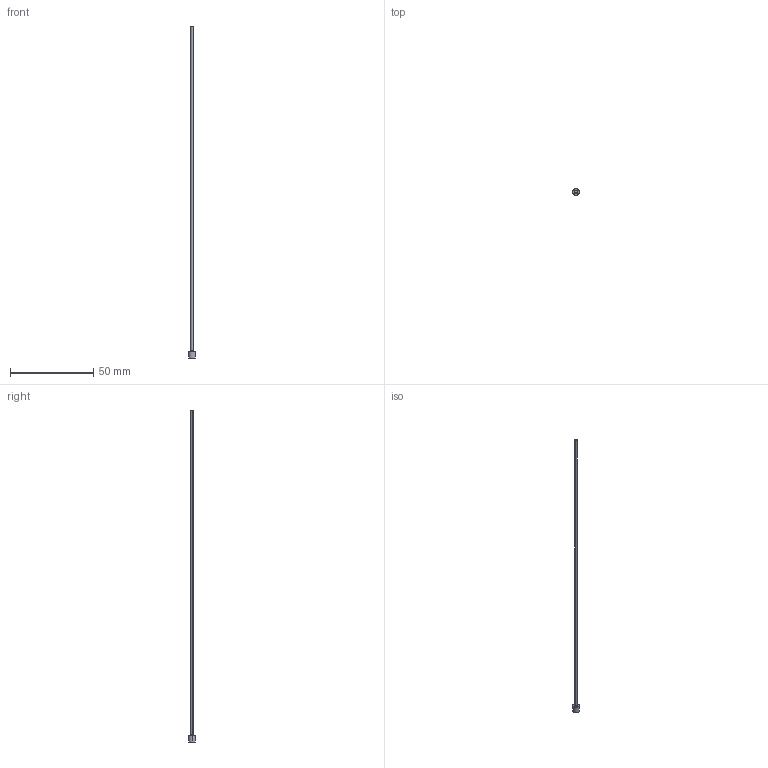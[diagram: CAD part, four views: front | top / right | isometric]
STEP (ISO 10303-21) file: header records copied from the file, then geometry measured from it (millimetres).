
FILE_DESCRIPTION (( 'STEP AP214' ), '1' );
FILE_NAME ('EPH1.7-200.step', '2024-04-11T21:07:17', ( '' ), ( '' ), 'SwSTEP 2.0', 'SolidWorks 2017', '' );
FILE_SCHEMA (( 'AUTOMOTIVE_DESIGN' ));
Length unit declared in the file: millimetre
Products named in the file (1): EPH1.7-200
Bounding box: 4 x 4 x 200 mm (x, y, z)
Volume: 495.3 mm3; surface area: 1121.5 mm2
Topology: 1 solids, 1 shells, 9 faces, 16 edges, 10 vertices
Faces by surface type: cylinder 4, plane 3, torus 2
Entity records: 260 total; most frequent: DIRECTION 48, CARTESIAN_POINT 36, ORIENTED_EDGE 32, AXIS2_PLACEMENT_3D 22, EDGE_CURVE 16, CIRCLE 12, EDGE_LOOP 10, VERTEX_POINT 10
